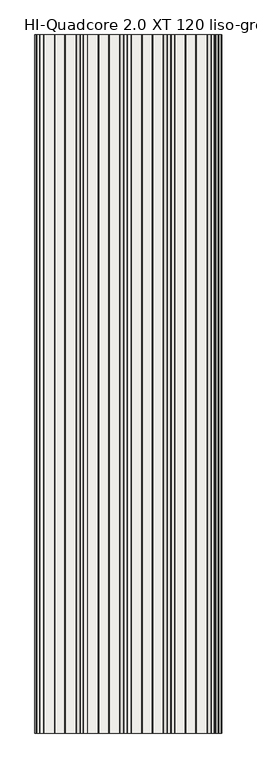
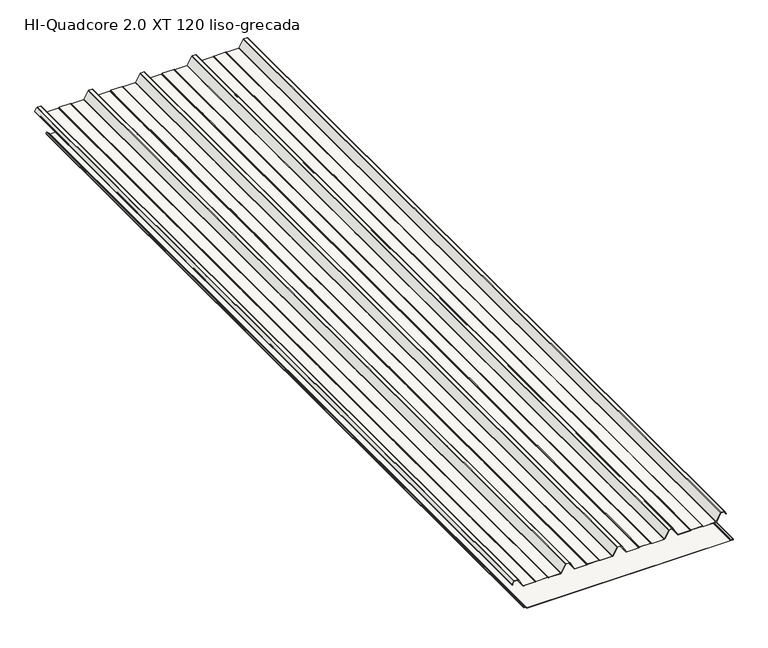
"""IFC4 building model written with IfcOpenShell, lengths in millimetres: slab geometry, Panel_HI_QuadCore 2.0 XT-XT DUAL_liso-grecada : HI-Quadcore 2.0 XT 120 liso-grecada."""

from ifc_helpers import new_model, si_unit, point, frame, frame_2d, origin, place, context, project, spatial, polyline, circle_curve, trimmed, segment, composite_curve, outline, extrude, source, transform, mapped, element, save
from ifc_brep_helpers import plane_surface, cylinder_surface, revolved_surface, advanced_brep


def hi_quadcore_2_0_xt_120_liso_grecada_ebd4d004(model_context):
    return source(origin(), model_context, "Body", "SolidModel", [
        advanced_brep(
        [(-463.5686109, 0.0, 13.3795578), (-464.1543582, 0.0, 11.9654043), (-464.1543963, 0.0, 8.2995811), (-462.3003213, 0.0, 6.328543), (-451.8922768, 0.0, 5.5663871), (-450.0967368, 0.0, 3.5769209), (-450.0966924, 0.0, 1.9756011), (-448.096637, 0.0, -0.0243435), (547.9162803, 0.0, 0.003269), (549.9046779, 0.0, 2.0032908), (549.904653, 0.0, 2.9012893), (548.0077486, 0.0, 4.8985749), (536.1928118, 0.0, 5.7933732), (534.3438482, 0.0, 7.7876066), (534.3437386, 0.0, 11.7402379), (533.757913, 0.0, 13.1544352), (532.3436602, 0.0, 14.5686095), (531.7779748, 0.0, 14.0029241), (533.1922433, 0.0, 12.5887341), (533.5437386, 0.0, 11.7402157), (533.5438482, 0.0, 7.7875844), (536.1323972, 0.0, 4.9956577), (547.958132, 0.0, 4.1000416), (549.104653, 0.0, 2.9012672), (549.1046779, 0.0, 2.0032686), (547.9136554, 0.0, 0.8032689), (-448.0966592, 0.0, 0.7756565), (-449.2966924, 0.0, 1.9756233), (-449.2967368, 0.0, 3.5769431), (-451.8231384, 0.0, 6.3634663), (-462.2418956, 0.0, 7.1264067), (-463.3542572, 0.0, 8.3231689), (-463.3543582, 0.0, 11.965396), (-463.0029098, 0.0, 12.8138881), (-460.8967817, 0.0, 14.920133), (-461.4624671, 0.0, 15.4858184), (-463.5686109, 4000.0, 13.3795578), (-461.4624671, 4000.0, 15.4858184), (-460.8967817, 4000.0, 14.920133), (-463.0029098, 4000.0, 12.8138881), (-463.3543582, 4000.0, 11.965396), (-463.3543963, 4000.0, 8.2995728), (-462.2418956, 4000.0, 7.1264067), (-451.8231384, 4000.0, 6.3634663), (-449.2967368, 4000.0, 3.5769431), (-449.2966924, 4000.0, 1.9756233), (-448.0966592, 4000.0, 0.7756565), (547.9136554, 4000.0, 0.8032689), (549.1046779, 4000.0, 2.0032686), (549.104653, 4000.0, 2.9012672), (547.958132, 4000.0, 4.1000416), (536.1323972, 4000.0, 4.9956577), (533.5438482, 4000.0, 7.7875844), (533.5437386, 4000.0, 11.7402157), (533.1922433, 4000.0, 12.5887341), (531.7779748, 4000.0, 14.0029241), (532.3436602, 4000.0, 14.5686095), (533.757913, 4000.0, 13.1544352), (534.3437386, 4000.0, 11.7402379), (534.3438482, 4000.0, 7.7876066), (536.1928118, 4000.0, 5.7933732), (548.0077486, 4000.0, 4.8985749), (549.904653, 4000.0, 2.9012893), (549.9046779, 4000.0, 2.0032908), (547.9162803, 4000.0, 0.003269), (-448.096637, 4000.0, -0.0243435), (-450.0966924, 4000.0, 1.9756011), (-450.0967368, 4000.0, 3.5769209), (-451.8922768, 4000.0, 5.5663871), (-462.3003213, 4000.0, 6.328543), (-464.1542572, 4000.0, 8.3231467), (-464.1543582, 4000.0, 11.9654043)],
        [
            (0, 1, circle_curve(frame((-462.1543582, 0.0, 11.9653834), z_axis=(0.0, -1.0, 0.0), x_axis=(1.0, 0.0, 0.0)), 2.0)),
            (1, 2),
            (2, 3, circle_curve(frame((-462.1542572, 0.0, 8.3232022), z_axis=(0.0, -1.0, 0.0), x_axis=(1.0, 0.0, 0.0)), 2.0)),
            (3, 4),
            (4, 5, circle_curve(frame((-452.0967368, 0.0, 3.5768655), z_axis=(0.0, 1.0, 0.0), x_axis=(1.0, 0.0, 0.0)), 2.0)),
            (5, 6),
            (6, 7, circle_curve(frame((-448.0966924, 0.0, 1.9756565), z_axis=(0.0, -1.0, 0.0), x_axis=(1.0, 0.0, 0.0)), 2.0)),
            (7, 8),
            (8, 9, circle_curve(frame((547.9046779, 0.0, 2.0032353), z_axis=(0.0, -1.0, 0.0), x_axis=(1.0, 0.0, 0.0)), 2.0)),
            (9, 10),
            (10, 11, circle_curve(frame((547.904653, 0.0, 2.9012339), z_axis=(0.0, -1.0, 0.0), x_axis=(1.0, 0.0, 0.0)), 2.0)),
            (11, 12),
            (12, 13, circle_curve(frame((536.3438482, 0.0, 7.7876621), z_axis=(0.0, 1.0, 0.0), x_axis=(1.0, 0.0, 0.0)), 2.0)),
            (13, 14),
            (14, 15, circle_curve(frame((532.3437386, 0.0, 11.7401824), z_axis=(0.0, -1.0, 0.0), x_axis=(1.0, 0.0, 0.0)), 2.0)),
            (15, 16),
            (16, 17),
            (17, 18),
            (18, 19, circle_curve(frame((532.3437386, 0.0, 11.7401824), z_axis=(0.0, 1.0, 0.0), x_axis=(1.0, 0.0, 0.0)), 1.2)),
            (19, 20),
            (20, 21, circle_curve(frame((536.3438482, 0.0, 7.7876621), z_axis=(0.0, -1.0, 0.0), x_axis=(1.0, 0.0, 0.0)), 2.8)),
            (21, 22),
            (22, 23, circle_curve(frame((547.904653, 0.0, 2.9012339), z_axis=(0.0, 1.0, 0.0), x_axis=(1.0, 0.0, 0.0)), 1.2)),
            (23, 24),
            (24, 25, circle_curve(frame((547.9046779, 0.0, 2.0032353), z_axis=(0.0, 1.0, 0.0), x_axis=(1.0, 0.0, 0.0)), 1.2)),
            (25, 26),
            (26, 27, circle_curve(frame((-448.0966924, 0.0, 1.9756565), z_axis=(0.0, 1.0, 0.0), x_axis=(1.0, 0.0, 0.0)), 1.2)),
            (27, 28),
            (28, 29, circle_curve(frame((-452.0967368, 0.0, 3.5768655), z_axis=(0.0, -1.0, 0.0), x_axis=(1.0, 0.0, 0.0)), 2.8)),
            (29, 30),
            (30, 31, circle_curve(frame((-462.1542572, 0.0, 8.3232022), z_axis=(0.0, 1.0, 0.0), x_axis=(1.0, 0.0, 0.0)), 1.2)),
            (31, 32),
            (32, 33, circle_curve(frame((-462.1543582, 0.0, 11.9653834), z_axis=(0.0, 1.0, 0.0), x_axis=(1.0, 0.0, 0.0)), 1.2)),
            (33, 34),
            (34, 35),
            (35, 0),
            (36, 37),
            (37, 38),
            (38, 39),
            (39, 40, circle_curve(frame((-462.1543582, 4000.0, 11.9653834), z_axis=(0.0, -1.0, 0.0), x_axis=(1.0, 0.0, 0.0)), 1.2)),
            (40, 41),
            (41, 42, circle_curve(frame((-462.1542572, 4000.0, 8.3232022), z_axis=(0.0, -1.0, 0.0), x_axis=(1.0, 0.0, 0.0)), 1.2)),
            (42, 43),
            (43, 44, circle_curve(frame((-452.0967368, 4000.0, 3.5768655), z_axis=(0.0, 1.0, 0.0), x_axis=(1.0, 0.0, 0.0)), 2.8)),
            (44, 45),
            (45, 46, circle_curve(frame((-448.0966924, 4000.0, 1.9756565), z_axis=(0.0, -1.0, 0.0), x_axis=(1.0, 0.0, 0.0)), 1.2)),
            (46, 47),
            (47, 48, circle_curve(frame((547.9046779, 4000.0, 2.0032353), z_axis=(0.0, -1.0, 0.0), x_axis=(1.0, 0.0, 0.0)), 1.2)),
            (48, 49),
            (49, 50, circle_curve(frame((547.904653, 4000.0, 2.9012339), z_axis=(0.0, -1.0, 0.0), x_axis=(1.0, 0.0, 0.0)), 1.2)),
            (50, 51),
            (51, 52, circle_curve(frame((536.3438482, 4000.0, 7.7876621), z_axis=(0.0, 1.0, 0.0), x_axis=(1.0, 0.0, 0.0)), 2.8)),
            (52, 53),
            (53, 54, circle_curve(frame((532.3437386, 4000.0, 11.7401824), z_axis=(0.0, -1.0, 0.0), x_axis=(1.0, 0.0, 0.0)), 1.2)),
            (54, 55),
            (55, 56),
            (56, 57),
            (57, 58, circle_curve(frame((532.3437386, 4000.0, 11.7401824), z_axis=(0.0, 1.0, 0.0), x_axis=(1.0, 0.0, 0.0)), 2.0)),
            (58, 59),
            (59, 60, circle_curve(frame((536.3438482, 4000.0, 7.7876621), z_axis=(0.0, -1.0, 0.0), x_axis=(1.0, 0.0, 0.0)), 2.0)),
            (60, 61),
            (61, 62, circle_curve(frame((547.904653, 4000.0, 2.9012339), z_axis=(0.0, 1.0, 0.0), x_axis=(1.0, 0.0, 0.0)), 2.0)),
            (62, 63),
            (63, 64, circle_curve(frame((547.9046779, 4000.0, 2.0032353), z_axis=(0.0, 1.0, 0.0), x_axis=(1.0, 0.0, 0.0)), 2.0)),
            (64, 65),
            (65, 66, circle_curve(frame((-448.0966924, 4000.0, 1.9756565), z_axis=(0.0, 1.0, 0.0), x_axis=(1.0, 0.0, 0.0)), 2.0)),
            (66, 67),
            (67, 68, circle_curve(frame((-452.0967368, 4000.0, 3.5768655), z_axis=(0.0, -1.0, 0.0), x_axis=(1.0, 0.0, 0.0)), 2.0)),
            (68, 69),
            (69, 70, circle_curve(frame((-462.1542572, 4000.0, 8.3232022), z_axis=(0.0, 1.0, 0.0), x_axis=(1.0, 0.0, 0.0)), 2.0)),
            (70, 71),
            (71, 36, circle_curve(frame((-462.1543582, 4000.0, 11.9653834), z_axis=(0.0, 1.0, 0.0), x_axis=(1.0, 0.0, 0.0)), 2.0)),
            (0, 36),
            (71, 1),
            (70, 2),
            (69, 3),
            (68, 4),
            (67, 5),
            (66, 6),
            (65, 7),
            (64, 8),
            (63, 9),
            (62, 10),
            (61, 11),
            (60, 12),
            (59, 13),
            (58, 14),
            (57, 15),
            (56, 16),
            (55, 17),
            (54, 18),
            (53, 19),
            (52, 20),
            (51, 21),
            (50, 22),
            (49, 23),
            (48, 24),
            (47, 25),
            (46, 26),
            (45, 27),
            (44, 28),
            (43, 29),
            (42, 30),
            (41, 31),
            (40, 32),
            (39, 33),
            (38, 34),
            (37, 35),
        ],
        [
            plane_surface(frame((-460.1543582, 0.0, 11.9653834), z_axis=(0.0, -1.0, 0.0), x_axis=(0.0, 0.0, 1.0))),
            plane_surface(frame((-460.1543582, 4000.0, 11.9653834), z_axis=(0.0, 1.0, 0.0), x_axis=(0.0, 0.0, -1.0))),
            cylinder_surface(frame((-462.1543582, 4000.0, 11.9653834), z_axis=(0.0, -1.0, 0.0), x_axis=(1.0, 0.0, 0.0)), 2.0),
            plane_surface(frame((-464.1543582, 0.0, 11.9654043), z_axis=(-0.9999999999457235, 0.0, 1.041887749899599e-05), x_axis=(0.0, 1.0, 0.0))),
            cylinder_surface(frame((-462.1542572, 4000.0, 8.3232022), z_axis=(0.0, -1.0, 0.0), x_axis=(1.0, 0.0, 0.0)), 2.0),
            plane_surface(frame((-462.3003213, 0.0, 6.328543), z_axis=(-0.07303203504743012, 0.0, -0.9973295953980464), x_axis=(0.0, 1.0, 0.0))),
            revolved_surface(polyline([(-450.0967368, 4000.0, 3.5768655), (-450.0967368, 0.0, 3.5768655)]), (-452.0967368, 4000.0, 3.5768655), (0.0, 1.0, 0.0)),
            plane_surface(frame((-450.0967368, 0.0, 3.5769209), z_axis=(-0.9999999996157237, 0.0, -2.7722781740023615e-05), x_axis=(0.0, 1.0, 0.0))),
            cylinder_surface(frame((-448.0966924, 4000.0, 1.9756565), z_axis=(0.0, -1.0, 0.0), x_axis=(1.0, 0.0, 0.0)), 2.0),
            plane_surface(frame((-448.096637, 0.0, -0.0243435), z_axis=(2.772298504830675e-05, 0.0, -0.9999999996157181), x_axis=(0.0, 1.0, 0.0))),
            cylinder_surface(frame((547.9046779, 4000.0, 2.0032353), z_axis=(0.0, -1.0, 0.0), x_axis=(1.0, 0.0, 0.0)), 2.0),
            plane_surface(frame((549.9046779, 0.0, 2.0032908), z_axis=(0.9999999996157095, 0.0, 2.7723295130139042e-05), x_axis=(0.0, 1.0, 0.0))),
            cylinder_surface(frame((547.904653, 4000.0, 2.9012339), z_axis=(0.0, -1.0, 0.0), x_axis=(1.0, 0.0, 0.0)), 2.0),
            plane_surface(frame((548.0077486, 0.0, 4.8985749), z_axis=(0.07551822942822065, 0.0, 0.9971444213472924), x_axis=(0.0, 1.0, 0.0))),
            revolved_surface(polyline([(538.3438482, 4000.0, 7.7876621), (538.3438482, 0.0, 7.7876621)]), (536.3438482, 4000.0, 7.7876621), (0.0, 1.0, 0.0)),
            plane_surface(frame((534.3438482, 0.0, 7.7876066), z_axis=(0.9999999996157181, 0.0, 2.7722984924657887e-05), x_axis=(0.0, 1.0, 0.0))),
            cylinder_surface(frame((532.3437386, 4000.0, 11.7401824), z_axis=(0.0, -1.0, 0.0), x_axis=(1.0, 0.0, 0.0)), 2.0),
            plane_surface(frame((533.757913, 0.0, 13.1544352), z_axis=(0.7070871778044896, 0.0, 0.7071263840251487), x_axis=(0.0, 1.0, 0.0))),
            plane_surface(frame((532.3436602, 0.0, 14.5686095), z_axis=(-0.7071067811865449, 0.0, 0.7071067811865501), x_axis=(0.0, 1.0, 0.0))),
            plane_surface(frame((531.7779748, 0.0, 14.0029241), z_axis=(-0.7070871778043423, 0.0, -0.707126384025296), x_axis=(0.0, 1.0, 0.0))),
            revolved_surface(polyline([(533.5437386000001, 4000.0, 11.7401824), (533.5437386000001, 0.0, 11.7401824)]), (532.3437386, 4000.0, 11.7401824), (0.0, 1.0, 0.0)),
            plane_surface(frame((533.5437386, 0.0, 11.7402157), z_axis=(-0.9999999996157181, 0.0, -2.7722985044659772e-05), x_axis=(0.0, 1.0, 0.0))),
            cylinder_surface(frame((536.3438482, 4000.0, 7.7876621), z_axis=(0.0, -1.0, 0.0), x_axis=(1.0, 0.0, 0.0)), 2.8),
            plane_surface(frame((536.1323972, 0.0, 4.9956577), z_axis=(-0.07551822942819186, 0.0, -0.9971444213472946), x_axis=(0.0, 1.0, 0.0))),
            revolved_surface(polyline([(549.1046530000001, 4000.0, 2.9012339), (549.1046530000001, 0.0, 2.9012339)]), (547.904653, 4000.0, 2.9012339), (0.0, 1.0, 0.0)),
            plane_surface(frame((549.104653, 0.0, 2.9012672), z_axis=(-0.9999999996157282, 0.0, -2.7722622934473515e-05), x_axis=(0.0, 1.0, 0.0))),
            revolved_surface(polyline([(549.1046779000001, 4000.0, 2.0032353), (549.1046779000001, 0.0, 2.0032353)]), (547.9046779, 4000.0, 2.0032353), (0.0, 1.0, 0.0)),
            plane_surface(frame((547.9136554, 0.0, 0.8032689), z_axis=(-2.7722985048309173e-05, 0.0, 0.9999999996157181), x_axis=(0.0, 1.0, 0.0))),
            revolved_surface(polyline([(-446.8966924, 4000.0, 1.9756565), (-446.8966924, 0.0, 1.9756565)]), (-448.0966924, 4000.0, 1.9756565), (0.0, 1.0, 0.0)),
            plane_surface(frame((-449.2966924, 0.0, 1.9756233), z_axis=(0.9999999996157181, 0.0, 2.7722983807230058e-05), x_axis=(0.0, 1.0, 0.0))),
            cylinder_surface(frame((-452.0967368, 4000.0, 3.5768655), z_axis=(0.0, -1.0, 0.0), x_axis=(1.0, 0.0, 0.0)), 2.8),
            plane_surface(frame((-451.8231384, 0.0, 6.3634663), z_axis=(0.0730320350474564, 0.0, 0.9973295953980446), x_axis=(0.0, 1.0, 0.0))),
            revolved_surface(polyline([(-460.95425720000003, 4000.0, 8.3232022), (-460.95425720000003, 0.0, 8.3232022)]), (-462.1542572, 4000.0, 8.3232022), (0.0, 1.0, 0.0)),
            plane_surface(frame((-463.3543963, 0.0, 8.2995728), z_axis=(0.9999999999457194, 0.0, -1.0419274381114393e-05), x_axis=(0.0, 1.0, 0.0))),
            revolved_surface(polyline([(-460.9543582, 4000.0, 11.9653834), (-460.9543582, 0.0, 11.9653834)]), (-462.1543582, 4000.0, 11.9653834), (0.0, 1.0, 0.0)),
            plane_surface(frame((-463.0029098, 0.0, 12.8138881), z_axis=(0.7071263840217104, 0.0, -0.7070871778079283), x_axis=(0.0, 1.0, 0.0))),
            plane_surface(frame((-460.8967817, 0.0, 14.920133), z_axis=(0.7071067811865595, 0.0, 0.7071067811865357), x_axis=(0.0, 1.0, 0.0))),
            plane_surface(frame((-461.4624671, 0.0, 15.4858184), z_axis=(-0.7071263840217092, 0.0, 0.7070871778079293), x_axis=(0.0, 1.0, 0.0))),
        ],
        [
            (0, [[1, 2, 3, 4, 5, 6, 7, 8, 9, 10, 11, 12, 13, 14, 15, 16, 17, 18, 19, 20, 21, 22, 23, 24, 25, 26, 27, 28, 29, 30, 31, 32, 33, 34, 35, 36]]),
            (1, [[37, 38, 39, 40, 41, 42, 43, 44, 45, 46, 47, 48, 49, 50, 51, 52, 53, 54, 55, 56, 57, 58, 59, 60, 61, 62, 63, 64, 65, 66, 67, 68, 69, 70, 71, 72]]),
            (2, [[-1, 73, -72, 74]]),
            (3, [[-2, -74, -71, 75]]),
            (4, [[-3, -75, -70, 76]]),
            (5, [[-4, -76, -69, 77]]),
            (6, [[-5, -77, -68, 78]]),
            (7, [[-6, -78, -67, 79]]),
            (8, [[-7, -79, -66, 80]]),
            (9, [[-8, -80, -65, 81]]),
            (10, [[-9, -81, -64, 82]]),
            (11, [[-10, -82, -63, 83]]),
            (12, [[-11, -83, -62, 84]]),
            (13, [[-12, -84, -61, 85]]),
            (14, [[-13, -85, -60, 86]]),
            (15, [[-14, -86, -59, 87]]),
            (16, [[-15, -87, -58, 88]]),
            (17, [[-16, -88, -57, 89]]),
            (18, [[-17, -89, -56, 90]]),
            (19, [[-18, -90, -55, 91]]),
            (20, [[-19, -91, -54, 92]]),
            (21, [[-20, -92, -53, 93]]),
            (22, [[-21, -93, -52, 94]]),
            (23, [[-22, -94, -51, 95]]),
            (24, [[-23, -95, -50, 96]]),
            (25, [[-24, -96, -49, 97]]),
            (26, [[-25, -97, -48, 98]]),
            (27, [[-26, -98, -47, 99]]),
            (28, [[-27, -99, -46, 100]]),
            (29, [[-28, -100, -45, 101]]),
            (30, [[-29, -101, -44, 102]]),
            (31, [[-30, -102, -43, 103]]),
            (32, [[-31, -103, -42, 104]]),
            (33, [[-32, -104, -41, 105]]),
            (34, [[-33, -105, -40, 106]]),
            (35, [[-34, -106, -39, 107]]),
            (36, [[-35, -107, -38, 108]]),
            (37, [[-36, -108, -37, -73]]),
        ],
    ),
        extrude(outline(composite_curve([segment(polyline([(158.1649405, -511.4858571), (143.6579587, -519.6460344)]), True, "CONTINUOUS"), segment(trimmed(circle_curve(frame_2d((143.0451321, -518.556565)), 1.25), [point((143.6579587, -519.6460344))], [point((142.689225, -517.3583037))], False, "CARTESIAN"), True, "CONTINUOUS"), segment(polyline([(142.689225, -517.3583037), (145.7359115, -516.562859), (145.9380053, -517.336912), (142.9074492, -518.1281453)]), True, "CONTINUOUS"), segment(trimmed(circle_curve(frame_2d((143.0451321, -518.556565)), 0.45), [point((142.9074492, -518.1281453))], [point((143.2657497, -518.948774))], True, "CARTESIAN"), True, "CONTINUOUS"), segment(polyline([(143.2657497, -518.948774), (157.7727315, -510.7885967)]), True, "CONTINUOUS"), segment(trimmed(circle_curve(frame_2d((156.4, -508.3481852)), 2.8), [point((157.7727315, -510.7885967))], [point((159.2, -508.3481852))], True, "CARTESIAN"), True, "CONTINUOUS"), segment(polyline([(159.2, -508.3481852), (159.2, -491.0688883)]), True, "CONTINUOUS"), segment(trimmed(circle_curve(frame_2d((156.4, -491.0688883)), 2.8), [point((159.2, -491.0688883))], [point((157.5457267, -488.5140281))], True, "CARTESIAN"), True, "CONTINUOUS"), segment(polyline([(157.5457267, -488.5140281), (121.2048889, -468.6947225)]), True, "CONTINUOUS"), segment(trimmed(circle_curve(frame_2d((123.0, -465.3454575)), 3.8), [point((121.2048889, -468.6947225))], [point((119.2, -465.3454575))], False, "CARTESIAN"), True, "CONTINUOUS"), segment(polyline([(119.2, -465.3454575), (119.2, -407.5510443)]), True, "CONTINUOUS"), segment(trimmed(circle_curve(frame_2d((123.0, -407.5510443)), 3.8), [point((119.2, -407.5510443))], [point((119.6973596, -405.671532))], False, "CARTESIAN"), True, "CONTINUOUS"), segment(polyline([(119.6973596, -405.671532), (120.912055, -403.5370944)]), True, "CONTINUOUS"), segment(trimmed(circle_curve(frame_2d((119.0, -402.4489557)), 2.2), [point((120.912055, -403.5370944))], [point((121.2, -402.4489557))], True, "CARTESIAN"), True, "CONTINUOUS"), segment(polyline([(121.2, -402.4489557), (121.2, -347.5510443)]), True, "CONTINUOUS"), segment(trimmed(circle_curve(frame_2d((119.0, -347.5510443)), 2.2), [point((121.2, -347.5510443))], [point((120.912055, -346.4629056))], True, "CARTESIAN"), True, "CONTINUOUS"), segment(polyline([(120.912055, -346.4629056), (119.6973596, -344.328468)]), True, "CONTINUOUS"), segment(trimmed(circle_curve(frame_2d((123.0, -342.4489557)), 3.8), [point((119.6973596, -344.328468))], [point((119.2, -342.4489557))], False, "CARTESIAN"), True, "CONTINUOUS"), segment(polyline([(119.2, -342.4489557), (119.2, -284.2545425)]), True, "CONTINUOUS"), segment(trimmed(circle_curve(frame_2d((123.0, -284.2545425)), 3.8), [point((119.2, -284.2545425))], [point((121.1370073, -280.9425554))], False, "CARTESIAN"), True, "CONTINUOUS"), segment(polyline([(121.1370073, -280.9425554), (158.0785747, -260.1629237)]), True, "CONTINUOUS"), segment(trimmed(circle_curve(frame_2d((157.0, -258.2454575)), 2.2), [point((158.0785747, -260.1629237))], [point((159.2, -258.2454575))], True, "CARTESIAN"), True, "CONTINUOUS"), segment(polyline([(159.2, -258.2454575), (159.2, -241.7545425)]), True, "CONTINUOUS"), segment(trimmed(circle_curve(frame_2d((157.0, -241.7545425)), 2.2), [point((159.2, -241.7545425))], [point((158.0785747, -239.8370763))], True, "CARTESIAN"), True, "CONTINUOUS"), segment(polyline([(158.0785747, -239.8370763), (121.1370073, -219.0574446)]), True, "CONTINUOUS"), segment(trimmed(circle_curve(frame_2d((123.0, -215.7454575)), 3.8), [point((121.1370073, -219.0574446))], [point((119.2, -215.7454575))], False, "CARTESIAN"), True, "CONTINUOUS"), segment(polyline([(119.2, -215.7454575), (119.2, -157.5510443)]), True, "CONTINUOUS"), segment(trimmed(circle_curve(frame_2d((123.0, -157.5510443)), 3.8), [point((119.2, -157.5510443))], [point((119.6973596, -155.671532))], False, "CARTESIAN"), True, "CONTINUOUS"), segment(polyline([(119.6973596, -155.671532), (120.912055, -153.5370944)]), True, "CONTINUOUS"), segment(trimmed(circle_curve(frame_2d((119.0, -152.4489557)), 2.2), [point((120.912055, -153.5370944))], [point((121.2, -152.4489557))], True, "CARTESIAN"), True, "CONTINUOUS"), segment(polyline([(121.2, -152.4489557), (121.2, -97.5510443)]), True, "CONTINUOUS"), segment(trimmed(circle_curve(frame_2d((119.0, -97.5510443)), 2.2), [point((121.2, -97.5510443))], [point((120.912055, -96.4629056))], True, "CARTESIAN"), True, "CONTINUOUS"), segment(polyline([(120.912055, -96.4629056), (119.6973596, -94.328468)]), True, "CONTINUOUS"), segment(trimmed(circle_curve(frame_2d((123.0, -92.4489557)), 3.8), [point((119.6973596, -94.328468))], [point((119.2, -92.4489557))], False, "CARTESIAN"), True, "CONTINUOUS"), segment(polyline([(119.2, -92.4489557), (119.2, -34.2545425)]), True, "CONTINUOUS"), segment(trimmed(circle_curve(frame_2d((123.0, -34.2545425)), 3.8), [point((119.2, -34.2545425))], [point((121.1370073, -30.9425554))], False, "CARTESIAN"), True, "CONTINUOUS"), segment(polyline([(121.1370073, -30.9425554), (158.0785747, -10.1629237)]), True, "CONTINUOUS"), segment(trimmed(circle_curve(frame_2d((157.0, -8.2454575)), 2.2), [point((158.0785747, -10.1629237))], [point((159.2, -8.2454575))], True, "CARTESIAN"), True, "CONTINUOUS"), segment(polyline([(159.2, -8.2454575), (159.2, 8.2454575)]), True, "CONTINUOUS"), segment(trimmed(circle_curve(frame_2d((157.0, 8.2454575)), 2.2), [point((159.2, 8.2454575))], [point((158.0785747, 10.1629237))], True, "CARTESIAN"), True, "CONTINUOUS"), segment(polyline([(158.0785747, 10.1629237), (121.1370073, 30.9425554)]), True, "CONTINUOUS"), segment(trimmed(circle_curve(frame_2d((123.0, 34.2545425)), 3.8), [point((121.1370073, 30.9425554))], [point((119.2, 34.2545425))], False, "CARTESIAN"), True, "CONTINUOUS"), segment(polyline([(119.2, 34.2545425), (119.2, 92.4489557)]), True, "CONTINUOUS"), segment(trimmed(circle_curve(frame_2d((123.0, 92.4489557)), 3.8), [point((119.2, 92.4489557))], [point((119.6973596, 94.328468))], False, "CARTESIAN"), True, "CONTINUOUS"), segment(polyline([(119.6973596, 94.328468), (120.912055, 96.4629056)]), True, "CONTINUOUS"), segment(trimmed(circle_curve(frame_2d((119.0, 97.5510443)), 2.2), [point((120.912055, 96.4629056))], [point((121.2, 97.5510443))], True, "CARTESIAN"), True, "CONTINUOUS"), segment(polyline([(121.2, 97.5510443), (121.2, 152.4489557)]), True, "CONTINUOUS"), segment(trimmed(circle_curve(frame_2d((119.0, 152.4489557)), 2.2), [point((121.2, 152.4489557))], [point((120.912055, 153.5370944))], True, "CARTESIAN"), True, "CONTINUOUS"), segment(polyline([(120.912055, 153.5370944), (119.6973596, 155.671532)]), True, "CONTINUOUS"), segment(trimmed(circle_curve(frame_2d((123.0, 157.5510443)), 3.8), [point((119.6973596, 155.671532))], [point((119.2, 157.5510443))], False, "CARTESIAN"), True, "CONTINUOUS"), segment(polyline([(119.2, 157.5510443), (119.2, 215.7454575)]), True, "CONTINUOUS"), segment(trimmed(circle_curve(frame_2d((123.0, 215.7454575)), 3.8), [point((119.2, 215.7454575))], [point((121.1370073, 219.0574446))], False, "CARTESIAN"), True, "CONTINUOUS"), segment(polyline([(121.1370073, 219.0574446), (158.0785747, 239.8370763)]), True, "CONTINUOUS"), segment(trimmed(circle_curve(frame_2d((157.0, 241.7545425)), 2.2), [point((158.0785747, 239.8370763))], [point((159.2, 241.7545425))], True, "CARTESIAN"), True, "CONTINUOUS"), segment(polyline([(159.2, 241.7545425), (159.2, 258.2454575)]), True, "CONTINUOUS"), segment(trimmed(circle_curve(frame_2d((157.0, 258.2454575)), 2.2), [point((159.2, 258.2454575))], [point((158.0785747, 260.1629237))], True, "CARTESIAN"), True, "CONTINUOUS"), segment(polyline([(158.0785747, 260.1629237), (121.1370073, 280.9425554)]), True, "CONTINUOUS"), segment(trimmed(circle_curve(frame_2d((123.0, 284.2545425)), 3.8), [point((121.1370073, 280.9425554))], [point((119.2, 284.2545425))], False, "CARTESIAN"), True, "CONTINUOUS"), segment(polyline([(119.2, 284.2545425), (119.2, 342.4489557)]), True, "CONTINUOUS"), segment(trimmed(circle_curve(frame_2d((123.0, 342.4489557)), 3.8), [point((119.2, 342.4489557))], [point((119.6973596, 344.328468))], False, "CARTESIAN"), True, "CONTINUOUS"), segment(polyline([(119.6973596, 344.328468), (120.912055, 346.4629056)]), True, "CONTINUOUS"), segment(trimmed(circle_curve(frame_2d((119.0, 347.5510443)), 2.2), [point((120.912055, 346.4629056))], [point((121.2, 347.5510443))], True, "CARTESIAN"), True, "CONTINUOUS"), segment(polyline([(121.2, 347.5510443), (121.2, 402.4489557)]), True, "CONTINUOUS"), segment(trimmed(circle_curve(frame_2d((119.0, 402.4489557)), 2.2), [point((121.2, 402.4489557))], [point((120.912055, 403.5370944))], True, "CARTESIAN"), True, "CONTINUOUS"), segment(polyline([(120.912055, 403.5370944), (119.6973596, 405.671532)]), True, "CONTINUOUS"), segment(trimmed(circle_curve(frame_2d((123.0, 407.5510443)), 3.8), [point((119.6973596, 405.671532))], [point((119.2, 407.5510443))], False, "CARTESIAN"), True, "CONTINUOUS"), segment(polyline([(119.2, 407.5510443), (119.2, 466.4208923)]), True, "CONTINUOUS"), segment(trimmed(circle_curve(frame_2d((123.0, 466.4208923)), 3.8), [point((119.2, 466.4208923))], [point((121.1583504, 469.7447946))], False, "CARTESIAN"), True, "CONTINUOUS"), segment(polyline([(121.1583504, 469.7447946), (158.0662182, 490.1940602)]), True, "CONTINUOUS"), segment(trimmed(circle_curve(frame_2d((157.0, 492.1184247)), 2.2), [point((158.0662182, 490.1940602))], [point((159.2, 492.1184247))], True, "CARTESIAN"), True, "CONTINUOUS"), segment(polyline([(159.2, 492.1184247), (159.2, 507.4945491)]), True, "CONTINUOUS"), segment(trimmed(circle_curve(frame_2d((157.0, 507.4945491)), 2.2), [point((159.2, 507.4945491))], [point((158.0785747, 509.4120152))], True, "CARTESIAN"), True, "CONTINUOUS"), segment(polyline([(158.0785747, 509.4120152), (147.5275176, 515.3469849)]), True, "CONTINUOUS"), segment(trimmed(circle_curve(frame_2d((146.9392041, 514.3010942)), 1.2), [point((147.5275176, 515.3469849))], [point((146.3392623, 515.3403583))], True, "CARTESIAN"), True, "CONTINUOUS"), segment(polyline([(146.3392623, 515.3403583), (144.7281681, 514.4103128), (144.3282068, 515.1031555), (145.939301, 516.033201)]), True, "CONTINUOUS"), segment(trimmed(circle_curve(frame_2d((146.9392041, 514.3010942)), 2.0), [point((145.939301, 516.033201))], [point((147.9197266, 516.0442453))], False, "CARTESIAN"), True, "CONTINUOUS"), segment(polyline([(147.9197266, 516.0442453), (158.4707837, 510.1092757)]), True, "CONTINUOUS"), segment(trimmed(circle_curve(frame_2d((157.0, 507.4945491)), 3.0), [point((158.4707837, 510.1092757))], [point((160.0, 507.4945491))], False, "CARTESIAN"), True, "CONTINUOUS"), segment(polyline([(160.0, 507.4945491), (160.0, 492.1184247)]), True, "CONTINUOUS"), segment(trimmed(circle_curve(frame_2d((157.0, 492.1184247)), 3.0), [point((160.0, 492.1184247))], [point((158.4539339, 489.4942913))], False, "CARTESIAN"), True, "CONTINUOUS"), segment(polyline([(158.4539339, 489.4942913), (121.5460661, 469.0450257)]), True, "CONTINUOUS"), segment(trimmed(circle_curve(frame_2d((123.0, 466.4208923)), 3.0), [point((121.5460661, 469.0450257))], [point((120.0, 466.4208923))], True, "CARTESIAN"), True, "CONTINUOUS"), segment(polyline([(120.0, 466.4208923), (120.0, 407.5510443)]), True, "CONTINUOUS"), segment(trimmed(circle_curve(frame_2d((123.0, 407.5510443)), 3.0), [point((120.0, 407.5510443))], [point((120.3926523, 406.0672188))], True, "CARTESIAN"), True, "CONTINUOUS"), segment(polyline([(120.3926523, 406.0672188), (121.6073477, 403.9327812)]), True, "CONTINUOUS"), segment(trimmed(circle_curve(frame_2d((119.0, 402.4489557)), 3.0), [point((121.6073477, 403.9327812))], [point((122.0, 402.4489557))], False, "CARTESIAN"), True, "CONTINUOUS"), segment(polyline([(122.0, 402.4489557), (122.0, 347.5510443)]), True, "CONTINUOUS"), segment(trimmed(circle_curve(frame_2d((119.0, 347.5510443)), 3.0), [point((122.0, 347.5510443))], [point((121.6073477, 346.0672188))], False, "CARTESIAN"), True, "CONTINUOUS"), segment(polyline([(121.6073477, 346.0672188), (120.3926523, 343.9327812)]), True, "CONTINUOUS"), segment(trimmed(circle_curve(frame_2d((123.0, 342.4489557)), 3.0), [point((120.3926523, 343.9327812))], [point((120.0, 342.4489557))], True, "CARTESIAN"), True, "CONTINUOUS"), segment(polyline([(120.0, 342.4489557), (120.0, 284.2545425)]), True, "CONTINUOUS"), segment(trimmed(circle_curve(frame_2d((123.0, 284.2545425)), 3.0), [point((120.0, 284.2545425))], [point((121.5292163, 281.6398158))], True, "CARTESIAN"), True, "CONTINUOUS"), segment(polyline([(121.5292163, 281.6398158), (158.4707837, 260.8601842)]), True, "CONTINUOUS"), segment(trimmed(circle_curve(frame_2d((157.0, 258.2454575)), 3.0), [point((158.4707837, 260.8601842))], [point((160.0, 258.2454575))], False, "CARTESIAN"), True, "CONTINUOUS"), segment(polyline([(160.0, 258.2454575), (160.0, 241.7545425)]), True, "CONTINUOUS"), segment(trimmed(circle_curve(frame_2d((157.0, 241.7545425)), 3.0), [point((160.0, 241.7545425))], [point((158.4707837, 239.1398158))], False, "CARTESIAN"), True, "CONTINUOUS"), segment(polyline([(158.4707837, 239.1398158), (121.5292163, 218.3601842)]), True, "CONTINUOUS"), segment(trimmed(circle_curve(frame_2d((123.0, 215.7454575)), 3.0), [point((121.5292163, 218.3601842))], [point((120.0, 215.7454575))], True, "CARTESIAN"), True, "CONTINUOUS"), segment(polyline([(120.0, 215.7454575), (120.0, 157.5510443)]), True, "CONTINUOUS"), segment(trimmed(circle_curve(frame_2d((123.0, 157.5510443)), 3.0), [point((120.0, 157.5510443))], [point((120.3926523, 156.0672188))], True, "CARTESIAN"), True, "CONTINUOUS"), segment(polyline([(120.3926523, 156.0672188), (121.6073477, 153.9327812)]), True, "CONTINUOUS"), segment(trimmed(circle_curve(frame_2d((119.0, 152.4489557)), 3.0), [point((121.6073477, 153.9327812))], [point((122.0, 152.4489557))], False, "CARTESIAN"), True, "CONTINUOUS"), segment(polyline([(122.0, 152.4489557), (122.0, 97.5510443)]), True, "CONTINUOUS"), segment(trimmed(circle_curve(frame_2d((119.0, 97.5510443)), 3.0), [point((122.0, 97.5510443))], [point((121.6073477, 96.0672188))], False, "CARTESIAN"), True, "CONTINUOUS"), segment(polyline([(121.6073477, 96.0672188), (120.3926523, 93.9327812)]), True, "CONTINUOUS"), segment(trimmed(circle_curve(frame_2d((123.0, 92.4489557)), 3.0), [point((120.3926523, 93.9327812))], [point((120.0, 92.4489557))], True, "CARTESIAN"), True, "CONTINUOUS"), segment(polyline([(120.0, 92.4489557), (120.0, 34.2545425)]), True, "CONTINUOUS"), segment(trimmed(circle_curve(frame_2d((123.0, 34.2545425)), 3.0), [point((120.0, 34.2545425))], [point((121.5292163, 31.6398158))], True, "CARTESIAN"), True, "CONTINUOUS"), segment(polyline([(121.5292163, 31.6398158), (158.4707837, 10.8601842)]), True, "CONTINUOUS"), segment(trimmed(circle_curve(frame_2d((157.0, 8.2454575)), 3.0), [point((158.4707837, 10.8601842))], [point((160.0, 8.2454575))], False, "CARTESIAN"), True, "CONTINUOUS"), segment(polyline([(160.0, 8.2454575), (160.0, -8.2454575)]), True, "CONTINUOUS"), segment(trimmed(circle_curve(frame_2d((157.0, -8.2454575)), 3.0), [point((160.0, -8.2454575))], [point((158.4707837, -10.8601842))], False, "CARTESIAN"), True, "CONTINUOUS"), segment(polyline([(158.4707837, -10.8601842), (121.5292163, -31.6398158)]), True, "CONTINUOUS"), segment(trimmed(circle_curve(frame_2d((123.0, -34.2545425)), 3.0), [point((121.5292163, -31.6398158))], [point((120.0, -34.2545425))], True, "CARTESIAN"), True, "CONTINUOUS"), segment(polyline([(120.0, -34.2545425), (120.0, -92.4489557)]), True, "CONTINUOUS"), segment(trimmed(circle_curve(frame_2d((123.0, -92.4489557)), 3.0), [point((120.0, -92.4489557))], [point((120.3926523, -93.9327812))], True, "CARTESIAN"), True, "CONTINUOUS"), segment(polyline([(120.3926523, -93.9327812), (121.6073477, -96.0672188)]), True, "CONTINUOUS"), segment(trimmed(circle_curve(frame_2d((119.0, -97.5510443)), 3.0), [point((121.6073477, -96.0672188))], [point((122.0, -97.5510443))], False, "CARTESIAN"), True, "CONTINUOUS"), segment(polyline([(122.0, -97.5510443), (122.0, -152.4489557)]), True, "CONTINUOUS"), segment(trimmed(circle_curve(frame_2d((119.0, -152.4489557)), 3.0), [point((122.0, -152.4489557))], [point((121.6073477, -153.9327812))], False, "CARTESIAN"), True, "CONTINUOUS"), segment(polyline([(121.6073477, -153.9327812), (120.3926523, -156.0672188)]), True, "CONTINUOUS"), segment(trimmed(circle_curve(frame_2d((123.0, -157.5510443)), 3.0), [point((120.3926523, -156.0672188))], [point((120.0, -157.5510443))], True, "CARTESIAN"), True, "CONTINUOUS"), segment(polyline([(120.0, -157.5510443), (120.0, -215.7454575)]), True, "CONTINUOUS"), segment(trimmed(circle_curve(frame_2d((123.0, -215.7454575)), 3.0), [point((120.0, -215.7454575))], [point((121.5292163, -218.3601842))], True, "CARTESIAN"), True, "CONTINUOUS"), segment(polyline([(121.5292163, -218.3601842), (158.4707837, -239.1398158)]), True, "CONTINUOUS"), segment(trimmed(circle_curve(frame_2d((157.0, -241.7545425)), 3.0), [point((158.4707837, -239.1398158))], [point((160.0, -241.7545425))], False, "CARTESIAN"), True, "CONTINUOUS"), segment(polyline([(160.0, -241.7545425), (160.0, -258.2454575)]), True, "CONTINUOUS"), segment(trimmed(circle_curve(frame_2d((157.0, -258.2454575)), 3.0), [point((160.0, -258.2454575))], [point((158.4707837, -260.8601842))], False, "CARTESIAN"), True, "CONTINUOUS"), segment(polyline([(158.4707837, -260.8601842), (121.5292163, -281.6398158)]), True, "CONTINUOUS"), segment(trimmed(circle_curve(frame_2d((123.0, -284.2545425)), 3.0), [point((121.5292163, -281.6398158))], [point((120.0, -284.2545425))], True, "CARTESIAN"), True, "CONTINUOUS"), segment(polyline([(120.0, -284.2545425), (120.0, -342.4489557)]), True, "CONTINUOUS"), segment(trimmed(circle_curve(frame_2d((123.0, -342.4489557)), 3.0), [point((120.0, -342.4489557))], [point((120.3926523, -343.9327812))], True, "CARTESIAN"), True, "CONTINUOUS"), segment(polyline([(120.3926523, -343.9327812), (121.6073477, -346.0672188)]), True, "CONTINUOUS"), segment(trimmed(circle_curve(frame_2d((119.0, -347.5510443)), 3.0), [point((121.6073477, -346.0672188))], [point((122.0, -347.5510443))], False, "CARTESIAN"), True, "CONTINUOUS"), segment(polyline([(122.0, -347.5510443), (122.0, -402.4489557)]), True, "CONTINUOUS"), segment(trimmed(circle_curve(frame_2d((119.0, -402.4489557)), 3.0), [point((122.0, -402.4489557))], [point((121.6073477, -403.9327812))], False, "CARTESIAN"), True, "CONTINUOUS"), segment(polyline([(121.6073477, -403.9327812), (120.3926523, -406.0672188)]), True, "CONTINUOUS"), segment(trimmed(circle_curve(frame_2d((123.0, -407.5510443)), 3.0), [point((120.3926523, -406.0672188))], [point((120.0, -407.5510443))], True, "CARTESIAN"), True, "CONTINUOUS"), segment(polyline([(120.0, -407.5510443), (120.0, -465.3454575)]), True, "CONTINUOUS"), segment(trimmed(circle_curve(frame_2d((123.0, -465.3454575)), 3.0), [point((120.0, -465.3454575))], [point((121.5852209, -467.9909065))], True, "CARTESIAN"), True, "CONTINUOUS"), segment(polyline([(121.5852209, -467.9909065), (157.9031732, -487.7977309)]), True, "CONTINUOUS"), segment(trimmed(circle_curve(frame_2d((156.4, -491.0688883)), 3.6), [point((157.9031732, -487.7977309))], [point((160.0, -491.0688883))], False, "CARTESIAN"), True, "CONTINUOUS"), segment(polyline([(160.0, -491.0688883), (160.0, -508.3481852)]), True, "CONTINUOUS"), segment(trimmed(circle_curve(frame_2d((156.4, -508.3481852)), 3.6), [point((160.0, -508.3481852))], [point((158.1649405, -511.4858571))], False, "CARTESIAN"), True, "CONTINUOUS")], self_intersect=False)), frame((0.0, 0.0, 0.0), z_axis=(0.0, 1.0, 0.0), x_axis=(0.0, 0.0, 1.0)), (0.0, 0.0, 1.0), 4000.0),
    ])


if __name__ == "__main__":
    model = new_model("IFC4")
    model_context = context("Model", 3, world=origin())
    ifc_project = project(units=[si_unit("LENGTHUNIT", "METRE", prefix="MILLI")], contexts=[model_context])
    site = spatial("IfcSite", under=ifc_project)
    building = spatial("IfcBuilding", under=site)
    placement = place(None, origin())
    hi_quadcore_2_0_xt_120_liso_grecada_shape = hi_quadcore_2_0_xt_120_liso_grecada_ebd4d004(model_context)
    element("IfcSlab", 1, ObjectType="Panel_HI_QuadCore 2.0 XT-XT DUAL_liso-grecada : HI-Quadcore 2.0 XT 120 liso-grecada", at=placement, inside=building, context=model_context, shape_type="MappedRepresentation", body=[
        mapped(hi_quadcore_2_0_xt_120_liso_grecada_shape, transform((0.0, 0.0, 0.0), x_axis=(1.0, 0.0, 0.0), y_axis=(0.0, 1.0, 0.0), z_axis=(0.0, 0.0, 1.0))),
    ])
    save(model, "model.ifc")
